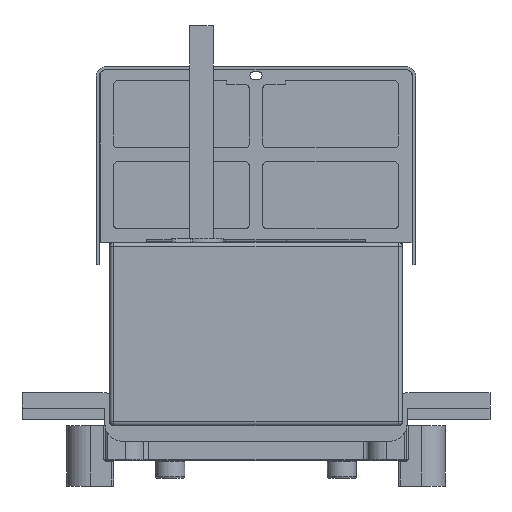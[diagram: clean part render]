
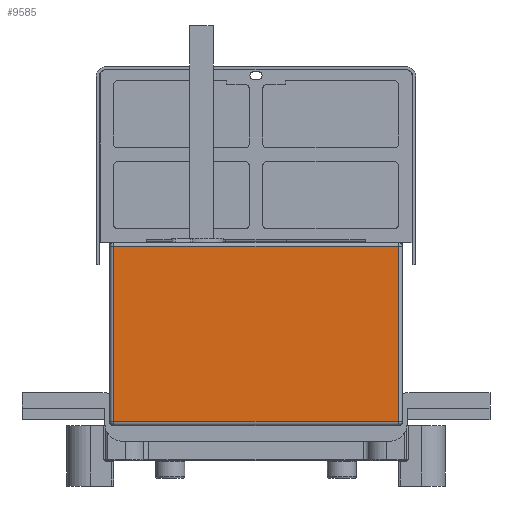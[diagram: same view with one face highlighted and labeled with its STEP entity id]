
A CAD part, left-side view. The second image highlights one B-rep face of the part: STEP entity #9585.
In plain terms, the highlighted planar face has unit normal (-1, 0, 0).
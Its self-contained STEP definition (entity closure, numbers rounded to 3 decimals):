
#2902=LINE('',#50740,#5678);
#2907=LINE('',#50761,#5683);
#2910=LINE('',#50784,#5686);
#2917=LINE('',#50794,#5693);
#5678=VECTOR('',#39139,1.);
#5683=VECTOR('',#39164,1.);
#5686=VECTOR('',#39193,1.);
#5693=VECTOR('',#39206,1.);
#6641=PLANE('',#31348);
#8029=FACE_OUTER_BOUND('',#12452,.T.);
#9585=ADVANCED_FACE('',(#8029),#6641,.F.);
#12452=EDGE_LOOP('',(#19870,#19871,#19872,#19873));
#19870=ORIENTED_EDGE('',*,*,#27413,.T.);
#19871=ORIENTED_EDGE('',*,*,#27395,.T.);
#19872=ORIENTED_EDGE('',*,*,#27406,.T.);
#19873=ORIENTED_EDGE('',*,*,#27384,.T.);
#23435=VERTEX_POINT('',#50726);
#23439=VERTEX_POINT('',#50737);
#23444=VERTEX_POINT('',#50754);
#23445=VERTEX_POINT('',#50758);
#27384=EDGE_CURVE('',#23439,#23435,#2902,.T.);
#27395=EDGE_CURVE('',#23445,#23444,#2907,.T.);
#27406=EDGE_CURVE('',#23444,#23439,#2910,.T.);
#27413=EDGE_CURVE('',#23435,#23445,#2917,.T.);
#31348=AXIS2_PLACEMENT_3D('',#50847,#39251,#39252);
#39139=DIRECTION('',(0.,1.,0.));
#39164=DIRECTION('',(0.,-1.,0.));
#39193=DIRECTION('',(0.,0.,1.));
#39206=DIRECTION('',(0.,0.,-1.));
#39251=DIRECTION('',(1.,0.,0.));
#39252=DIRECTION('',(0.,1.,0.));
#50726=CARTESIAN_POINT('',(-150.,73.,92.));
#50737=CARTESIAN_POINT('',(-150.,-73.,92.));
#50740=CARTESIAN_POINT('',(-150.,73.,92.));
#50754=CARTESIAN_POINT('',(-150.,-73.,2.));
#50758=CARTESIAN_POINT('',(-150.,73.,2.));
#50761=CARTESIAN_POINT('',(-150.,75.,2.));
#50784=CARTESIAN_POINT('',(-150.,-73.,94.));
#50794=CARTESIAN_POINT('',(-150.,73.,94.));
#50847=CARTESIAN_POINT('',(-150.,75.,94.));
